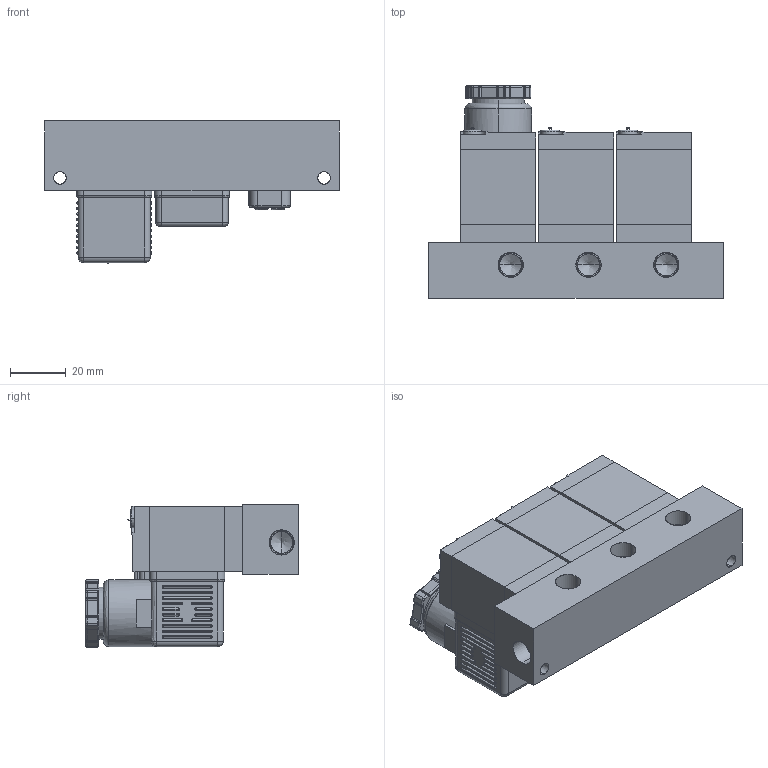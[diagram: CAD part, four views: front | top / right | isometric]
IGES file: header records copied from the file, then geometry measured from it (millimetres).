
Start section: SolidWorks IGES file using analytic representation for surfaces
Global section: file name: C:\Users\Toshiba\Desktop\MF#-TI1-01.IGS; native system: SolidWorks 2014; preprocessor: SolidWorks 2014; author: Toshiba; date: 160801.111047; units: millimetre
Bounding box: 106 x 76.5 x 51.14 mm (x, y, z)
Surface area: 49542.5 mm2 (no closed solid volume)
Topology: 0 solids, 0 shells, 955 faces, 8408 edges, 8255 vertices
Faces by surface type: revolution 521, bspline 434
